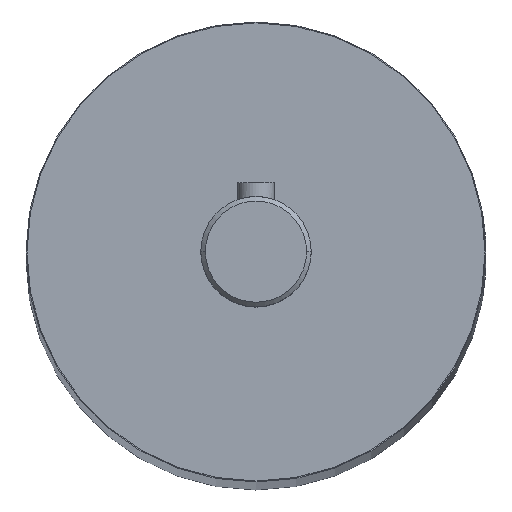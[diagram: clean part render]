
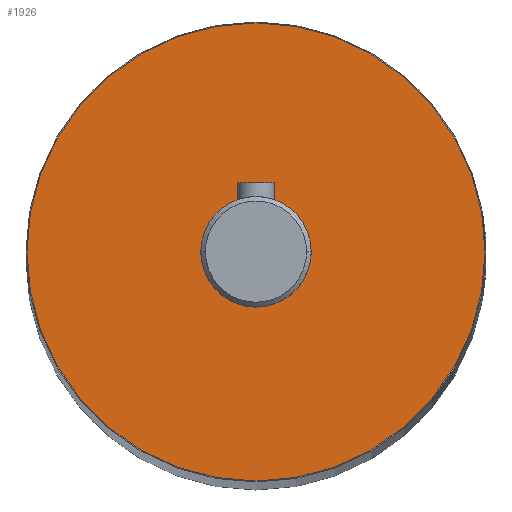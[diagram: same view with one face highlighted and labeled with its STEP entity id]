
A CAD part, top view. The second image highlights one B-rep face of the part: STEP entity #1926.
In plain terms, the highlighted planar face has unit normal (0, 0, 1).
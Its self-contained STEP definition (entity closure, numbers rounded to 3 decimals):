
#65 = AXIS2_PLACEMENT_3D ( 'NONE', #535, #279, #1452 ) ;
#130 = AXIS2_PLACEMENT_3D ( 'NONE', #608, #1676, #324 ) ;
#147 = CARTESIAN_POINT ( 'NONE',  ( -24.9, 0., 252.5 ) ) ;
#165 = AXIS2_PLACEMENT_3D ( 'NONE', #383, #236, #1153 ) ;
#222 = FACE_BOUND ( 'NONE', #1118, .T. ) ;
#232 = CARTESIAN_POINT ( 'NONE',  ( 6., 0., 252.5 ) ) ;
#234 = DIRECTION ( 'NONE',  ( 0., 0., 1. ) ) ;
#236 = DIRECTION ( 'NONE',  ( 0., 0., 1. ) ) ;
#279 = DIRECTION ( 'NONE',  ( 0., 0., 1. ) ) ;
#315 = VERTEX_POINT ( 'NONE', #333 ) ;
#324 = DIRECTION ( 'NONE',  ( 1., 0., 0. ) ) ;
#333 = CARTESIAN_POINT ( 'NONE',  ( 24.9, 0., 252.5 ) ) ;
#383 = CARTESIAN_POINT ( 'NONE',  ( 0., 0., 252.5 ) ) ;
#386 = CARTESIAN_POINT ( 'NONE',  ( -6., 0., 252.5 ) ) ;
#528 = VERTEX_POINT ( 'NONE', #232 ) ;
#535 = CARTESIAN_POINT ( 'NONE',  ( 0., 0., 252.5 ) ) ;
#540 = VERTEX_POINT ( 'NONE', #386 ) ;
#543 = PLANE ( 'NONE',  #1518 ) ;
#608 = CARTESIAN_POINT ( 'NONE',  ( 0., 0., 252.5 ) ) ;
#620 = CIRCLE ( 'NONE', #165, 6. ) ;
#671 = ORIENTED_EDGE ( 'NONE', *, *, #1220, .F. ) ;
#706 = EDGE_LOOP ( 'NONE', ( #975, #1717 ) ) ;
#814 = DIRECTION ( 'NONE',  ( 0., 0., 1. ) ) ;
#833 = DIRECTION ( 'NONE',  ( 1., 0., 0. ) ) ;
#963 = FACE_OUTER_BOUND ( 'NONE', #706, .T. ) ;
#975 = ORIENTED_EDGE ( 'NONE', *, *, #1764, .T. ) ;
#1082 = CIRCLE ( 'NONE', #65, 24.9 ) ;
#1118 = EDGE_LOOP ( 'NONE', ( #671, #1136 ) ) ;
#1136 = ORIENTED_EDGE ( 'NONE', *, *, #1563, .F. ) ;
#1153 = DIRECTION ( 'NONE',  ( 1., 0., 0. ) ) ;
#1160 = CARTESIAN_POINT ( 'NONE',  ( 0., 0., 252.5 ) ) ;
#1220 = EDGE_CURVE ( 'NONE', #540, #528, #620, .T. ) ;
#1452 = DIRECTION ( 'NONE',  ( 1., 0., 0. ) ) ;
#1472 = DIRECTION ( 'NONE',  ( 1., 0., 0. ) ) ;
#1500 = EDGE_CURVE ( 'NONE', #315, #1609, #1082, .T. ) ;
#1518 = AXIS2_PLACEMENT_3D ( 'NONE', #1160, #814, #833 ) ;
#1563 = EDGE_CURVE ( 'NONE', #528, #540, #1583, .T. ) ;
#1583 = CIRCLE ( 'NONE', #1834, 6. ) ;
#1609 = VERTEX_POINT ( 'NONE', #147 ) ;
#1676 = DIRECTION ( 'NONE',  ( 0., 0., 1. ) ) ;
#1717 = ORIENTED_EDGE ( 'NONE', *, *, #1500, .T. ) ;
#1761 = CARTESIAN_POINT ( 'NONE',  ( 0., 0., 252.5 ) ) ;
#1764 = EDGE_CURVE ( 'NONE', #1609, #315, #1863, .T. ) ;
#1834 = AXIS2_PLACEMENT_3D ( 'NONE', #1761, #234, #1472 ) ;
#1863 = CIRCLE ( 'NONE', #130, 24.9 ) ;
#1926 = ADVANCED_FACE ( 'NONE', ( #222, #963 ), #543, .T. ) ;
